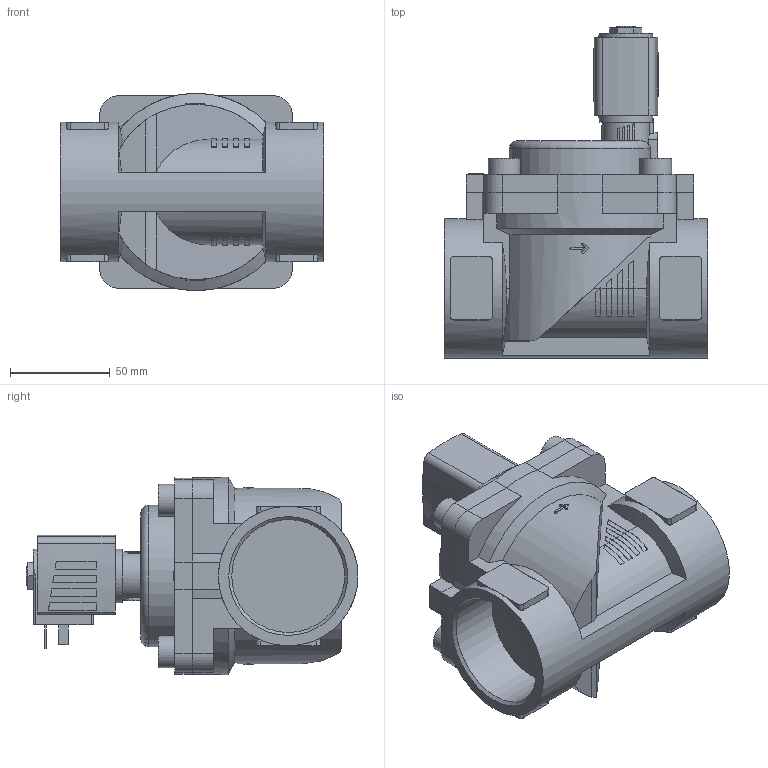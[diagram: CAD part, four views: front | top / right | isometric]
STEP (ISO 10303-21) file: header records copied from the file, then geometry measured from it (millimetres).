
FILE_DESCRIPTION(/* description */ ('STEP AP214'),/* implementation_level */ '2;1');
FILE_NAME(/* name */ '6281-339210-2_2-Way_Solenoid_Valve__Servo-assisted__General_Purpose',/* time_stamp */ '2024-09-04T08:09:46+02:00',/* author */ ('License CC BY-ND 4.0'),/* organization */ ('CADENAS'),/* preprocessor_version */ 'ST-DEVELOPER v19.3',/* originating_system */ 'PARTsolutions',/* authorisation */ ' ');
FILE_SCHEMA (('AUTOMOTIVE_DESIGN {1 0 10303 214 3 1 1}'));
Length unit declared in the file: millimetre
Products named in the file (4): 6281-339210-2/2-Way Solenoid Valve, Servo-assisted, General Purpose; 5281ev400MS2/2-Wege-Magnetventil mit Servomembran-Deckel 99 ; 6213-40G2VA-Gehaeuse-; AC10ex-5NA38-Plan-Coil
Assembly tree (3 placements, depth 2):
  6281-339210-2/2-Way Solenoid Valve, Servo-assisted, General Purpose
    5281ev400MS2/2-Wege-Magnetventil mit Servomembran-Deckel 99 
    6213-40G2VA-Gehaeuse-
    AC10ex-5NA38-Plan-Coil
Bounding box: 132 x 166.5 x 99 mm (x, y, z)
Volume: 750681.6 mm3; surface area: 103014.1 mm2
Topology: 3 solids, 3 shells, 353 faces, 938 edges, 620 vertices
Faces by surface type: plane 242, cylinder 95, cone 15, torus 1
Full cylindrical faces by diameter (mm): 2.013 x1, 9.74 x1, 16 x4, 27 x1, 56.656 x2, 70 x1
Entity records: 12224 total; most frequent: CARTESIAN_POINT 2169, ORIENTED_EDGE 1828, DIRECTION 1802, EDGE_CURVE 914, VERTEX_POINT 612, AXIS2_PLACEMENT_3D 608, LINE 586, VECTOR 586
